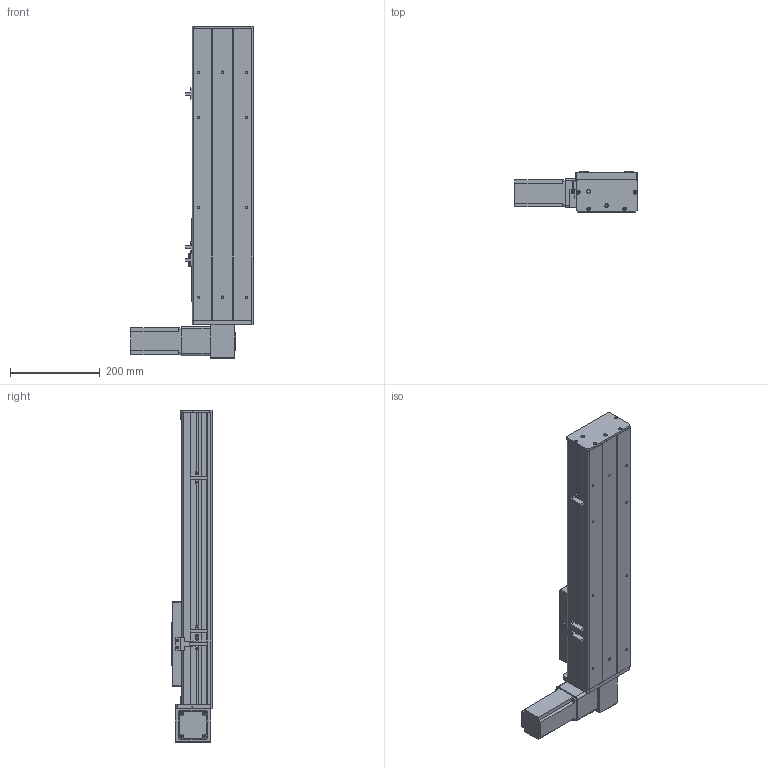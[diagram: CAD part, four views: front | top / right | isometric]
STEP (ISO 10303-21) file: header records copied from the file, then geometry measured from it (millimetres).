
FILE_DESCRIPTION (( 'STEP AP203' ), '1' );
FILE_NAME ('Y135CB-D90-S350-BD-P400W.STEP', '2020-02-19T02:53:52', ( '微软用户' ), ( '微软中国' ), 'SwSTEP 2.0', 'SolidWorks 2017', '' );
FILE_SCHEMA (( 'CONFIG_CONTROL_DESIGN' ));
Length unit declared in the file: millimetre
Products named in the file (16): 0B-埴倛裔啣; C-雄赽釱--; 0B-源倛裔啣; Y10B--々湍喘謫眊--666; san松下电机400不带刹车----; 0B-薊粣ん眊; 5CB --掛极耜裔啣-; Y135CB-D90-S350-BD-P400W; C-詩湍揤踡え-陔; 135CB--詩湍-CE; Y135CB-耜裔; Y100-135俋离換覜ん--; 135CB---遴掛极.-; Y135C-陔俋离換覜結え-; 35CB---喘謫眊楊擘啣; 5C--俋欶
Assembly tree (19 placements, depth 2):
  Y135CB-D90-S350-BD-P400W
    Y135CB-耜裔
    135CB---遴掛极.-
    35CB---喘謫眊楊擘啣
    0B-埴倛裔啣
    0B-源倛裔啣
    san松下电机400不带刹车----
    5CB --掛极耜裔啣-  x2
    C-詩湍揤踡え-陔  x2
    135CB--詩湍-CE
    Y100-135俋离換覜ん--  x3
    Y135C-陔俋离換覜結え-
    5C--俋欶
    C-雄赽釱--
    Y10B--々湍喘謫眊--666
    0B-薊粣ん眊
Bounding box: 272 x 91 x 738 mm (x, y, z)
Volume: 2698743.1 mm3; surface area: 994883.9 mm2
Topology: 19 solids, 19 shells, 843 faces, 2212 edges, 1464 vertices
Faces by surface type: plane 415, cylinder 412, cone 16
Entity records: 25400 total; most frequent: DIRECTION 4232, CARTESIAN_POINT 4115, ORIENTED_EDGE 3900, EDGE_CURVE 1950, AXIS2_PLACEMENT_3D 1545, VERTEX_POINT 1292, VECTOR 1142, LINE 1142
